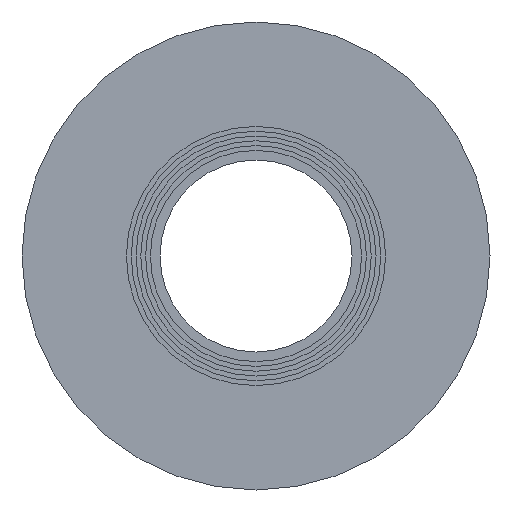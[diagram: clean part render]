
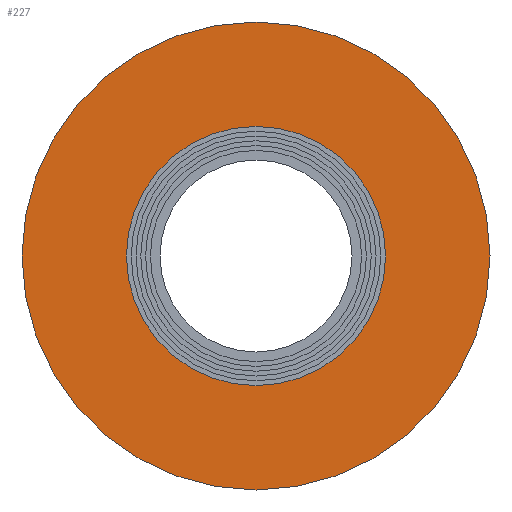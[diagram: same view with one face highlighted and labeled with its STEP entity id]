
A CAD part, left-side view. The second image highlights one B-rep face of the part: STEP entity #227.
In plain terms, the highlighted planar face has unit normal (-1, 0, 0).
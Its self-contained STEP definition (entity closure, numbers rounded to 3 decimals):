
#19=PLANE('',#265);
#45=FACE_BOUND('',#98,.T.);
#65=FACE_OUTER_BOUND('',#97,.T.);
#97=EDGE_LOOP('',(#197));
#98=EDGE_LOOP('',(#198));
#128=CIRCLE('',#263,21.6);
#129=CIRCLE('',#266,39.);
#148=VERTEX_POINT('',#401);
#149=VERTEX_POINT('',#405);
#168=EDGE_CURVE('',#148,#148,#128,.T.);
#169=EDGE_CURVE('',#149,#149,#129,.T.);
#197=ORIENTED_EDGE('',*,*,#169,.F.);
#198=ORIENTED_EDGE('',*,*,#168,.T.);
#227=ADVANCED_FACE('',(#65,#45),#19,.T.);
#263=AXIS2_PLACEMENT_3D('',#402,#331,#332);
#265=AXIS2_PLACEMENT_3D('',#404,#335,#336);
#266=AXIS2_PLACEMENT_3D('',#406,#337,#338);
#331=DIRECTION('center_axis',(1.,0.,0.));
#332=DIRECTION('ref_axis',(0.,0.,-1.));
#335=DIRECTION('center_axis',(-1.,0.,0.));
#336=DIRECTION('ref_axis',(0.,0.,1.));
#337=DIRECTION('center_axis',(1.,0.,0.));
#338=DIRECTION('ref_axis',(0.,0.,-1.));
#401=CARTESIAN_POINT('',(-85.,0.,21.6));
#402=CARTESIAN_POINT('Origin',(-85.,0.,0.));
#404=CARTESIAN_POINT('Origin',(-85.,39.,0.));
#405=CARTESIAN_POINT('',(-85.,39.,0.));
#406=CARTESIAN_POINT('Origin',(-85.,0.,0.));
